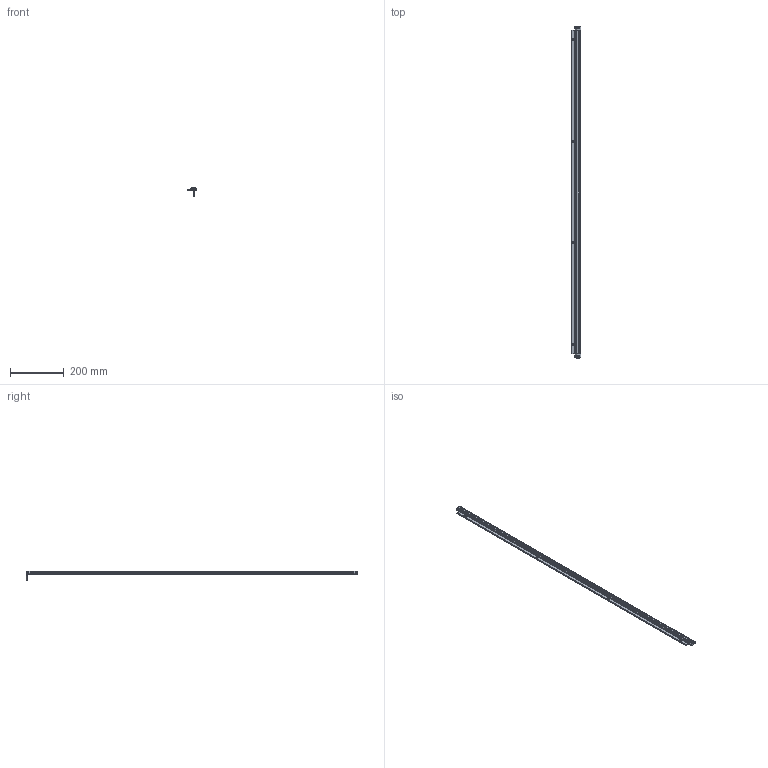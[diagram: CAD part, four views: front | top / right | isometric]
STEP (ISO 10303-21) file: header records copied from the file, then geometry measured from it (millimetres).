
FILE_DESCRIPTION (( 'STEP AP214' ), '1' );
FILE_NAME ('ILGA-L-K1a-1230mm.STEP', '2026-04-24T23:09:28', ( '' ), ( '' ), 'SwSTEP 2.0', 'SolidWorks 2025', '' );
FILE_SCHEMA (( 'AUTOMOTIVE_DESIGN' ));
Length unit declared in the file: millimetre
Products named in the file (1): ILGA-L-K1a-1230mm
Bounding box: 35 x 1230 x 34.2 mm (x, y, z)
Volume: 128341.8 mm3; surface area: 189833.3 mm2
Topology: 9 solids, 9 shells, 684 faces, 1778 edges, 1086 vertices
Faces by surface type: plane 293, cylinder 247, cone 60, torus 44, bspline 24, sphere 16
Entity records: 28741 total; most frequent: CARTESIAN_POINT 4449, DIRECTION 3632, ORIENTED_EDGE 3468, EDGE_CURVE 1734, AXIS2_PLACEMENT_3D 1357, VERTEX_POINT 1086, LINE 918, VECTOR 918
